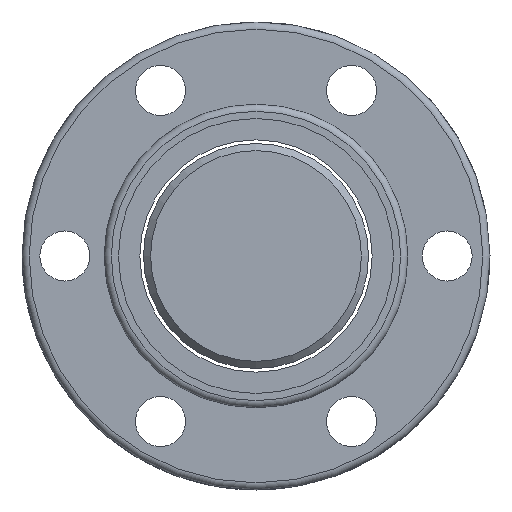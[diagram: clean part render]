
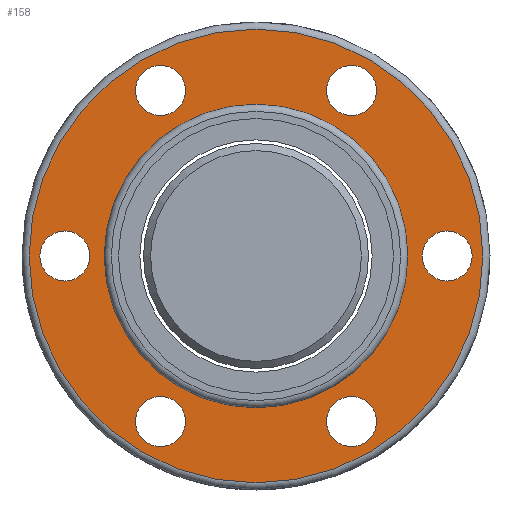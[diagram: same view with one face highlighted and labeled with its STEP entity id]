
A CAD part, left-side view. The second image highlights one B-rep face of the part: STEP entity #158.
In plain terms, the highlighted planar face has unit normal (-1, 0, 0).
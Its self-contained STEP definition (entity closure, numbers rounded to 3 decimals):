
#114=PLANE('',#667);
#133=FACE_OUTER_BOUND('',#319,.T.);
#158=ADVANCED_FACE('',(#228,#229,#230,#231,#232,#233,#133,#234),#114,.F.);
#228=FACE_BOUND('',#313,.T.);
#229=FACE_BOUND('',#314,.T.);
#230=FACE_BOUND('',#315,.T.);
#231=FACE_BOUND('',#316,.T.);
#232=FACE_BOUND('',#317,.T.);
#233=FACE_BOUND('',#318,.T.);
#234=FACE_BOUND('',#320,.T.);
#313=EDGE_LOOP('',(#409));
#314=EDGE_LOOP('',(#410));
#315=EDGE_LOOP('',(#411));
#316=EDGE_LOOP('',(#412));
#317=EDGE_LOOP('',(#413));
#318=EDGE_LOOP('',(#414));
#319=EDGE_LOOP('',(#415));
#320=EDGE_LOOP('',(#416));
#409=ORIENTED_EDGE('',*,*,#545,.T.);
#410=ORIENTED_EDGE('',*,*,#546,.T.);
#411=ORIENTED_EDGE('',*,*,#547,.T.);
#412=ORIENTED_EDGE('',*,*,#548,.T.);
#413=ORIENTED_EDGE('',*,*,#549,.T.);
#414=ORIENTED_EDGE('',*,*,#550,.T.);
#415=ORIENTED_EDGE('',*,*,#543,.F.);
#416=ORIENTED_EDGE('',*,*,#551,.T.);
#495=VERTEX_POINT('',#955);
#497=VERTEX_POINT('',#960);
#498=VERTEX_POINT('',#962);
#499=VERTEX_POINT('',#964);
#500=VERTEX_POINT('',#966);
#501=VERTEX_POINT('',#968);
#502=VERTEX_POINT('',#970);
#503=VERTEX_POINT('',#972);
#543=EDGE_CURVE('',#495,#495,#593,.T.);
#545=EDGE_CURVE('',#497,#497,#595,.T.);
#546=EDGE_CURVE('',#498,#498,#596,.T.);
#547=EDGE_CURVE('',#499,#499,#597,.T.);
#548=EDGE_CURVE('',#500,#500,#598,.T.);
#549=EDGE_CURVE('',#501,#501,#599,.T.);
#550=EDGE_CURVE('',#502,#502,#600,.T.);
#551=EDGE_CURVE('',#503,#503,#601,.T.);
#593=CIRCLE('',#657,63.5);
#595=CIRCLE('',#660,7.);
#596=CIRCLE('',#661,7.);
#597=CIRCLE('',#662,7.);
#598=CIRCLE('',#663,7.);
#599=CIRCLE('',#664,7.);
#600=CIRCLE('',#665,7.);
#601=CIRCLE('',#666,42.5);
#657=AXIS2_PLACEMENT_3D('',#954,#778,#779);
#660=AXIS2_PLACEMENT_3D('',#959,#784,#785);
#661=AXIS2_PLACEMENT_3D('',#961,#786,#787);
#662=AXIS2_PLACEMENT_3D('',#963,#788,#789);
#663=AXIS2_PLACEMENT_3D('',#965,#790,#791);
#664=AXIS2_PLACEMENT_3D('',#967,#792,#793);
#665=AXIS2_PLACEMENT_3D('',#969,#794,#795);
#666=AXIS2_PLACEMENT_3D('',#971,#796,#797);
#667=AXIS2_PLACEMENT_3D('',#973,#798,#799);
#778=DIRECTION('',(1.,0.,0.));
#779=DIRECTION('',(0.,0.,-1.));
#784=DIRECTION('',(1.,0.,0.));
#785=DIRECTION('',(0.,0.,-1.));
#786=DIRECTION('',(1.,0.,0.));
#787=DIRECTION('',(0.,0.,-1.));
#788=DIRECTION('',(1.,0.,0.));
#789=DIRECTION('',(0.,0.,-1.));
#790=DIRECTION('',(1.,0.,0.));
#791=DIRECTION('',(0.,0.,-1.));
#792=DIRECTION('',(1.,0.,0.));
#793=DIRECTION('',(0.,0.,-1.));
#794=DIRECTION('',(1.,0.,0.));
#795=DIRECTION('',(0.,0.,-1.));
#796=DIRECTION('',(1.,0.,0.));
#797=DIRECTION('',(0.,0.,-1.));
#798=DIRECTION('',(1.,0.,0.));
#799=DIRECTION('',(0.,0.,-1.));
#954=CARTESIAN_POINT('',(-42.,0.,0.));
#955=CARTESIAN_POINT('',(-42.,0.,-63.5));
#959=CARTESIAN_POINT('',(-42.,53.5,0.));
#960=CARTESIAN_POINT('',(-42.,53.5,-7.));
#961=CARTESIAN_POINT('',(-42.,-53.5,0.));
#962=CARTESIAN_POINT('',(-42.,-53.5,-7.));
#963=CARTESIAN_POINT('',(-42.,26.75,-46.33));
#964=CARTESIAN_POINT('',(-42.,26.75,-53.33));
#965=CARTESIAN_POINT('',(-42.,-26.75,-46.33));
#966=CARTESIAN_POINT('',(-42.,-26.75,-53.33));
#967=CARTESIAN_POINT('',(-42.,-26.75,46.33));
#968=CARTESIAN_POINT('',(-42.,-26.75,39.33));
#969=CARTESIAN_POINT('',(-42.,26.75,46.33));
#970=CARTESIAN_POINT('',(-42.,26.75,39.33));
#971=CARTESIAN_POINT('',(-42.,0.,0.));
#972=CARTESIAN_POINT('',(-42.,0.,-42.5));
#973=CARTESIAN_POINT('',(-42.,53.,0.));
